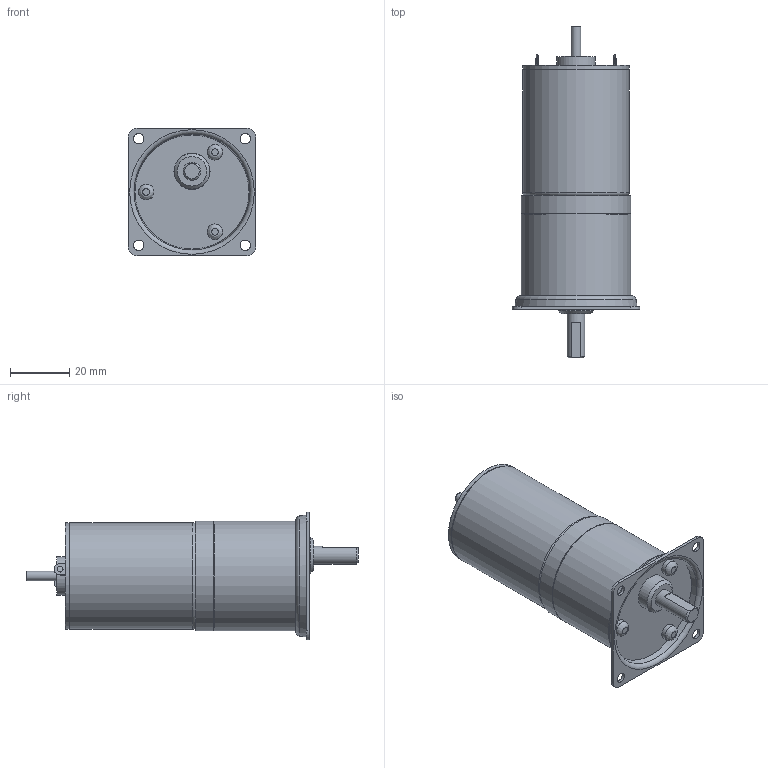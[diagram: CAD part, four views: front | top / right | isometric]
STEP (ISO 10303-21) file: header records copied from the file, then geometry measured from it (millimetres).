
FILE_DESCRIPTION((''),'2;1');
FILE_NAME('C:\Documents and Settings\SSEGAWA\デスクトップ\TP-3644L-PHM-6.STP','2013-07-26T18:54:19',('SSEGAWA'),(''),'Autodesk Inventor 2010','Autodesk Inventor 2010','');
FILE_SCHEMA(('CONFIG_CONTROL_DESIGN'));
Length unit declared in the file: millimetre
Products named in the file (1): tp_3644l_phm_6_Shrinkwrap_1
Bounding box: 43 x 112.1 x 43 mm (x, y, z)
Volume: 84537.2 mm3; surface area: 15425.4 mm2
Topology: 1 solids, 9 shells, 100 faces, 208 edges, 139 vertices
Faces by surface type: plane 43, cylinder 26, bspline 23, torus 4, cone 4
Full cylindrical faces by diameter (mm): 3 x1, 3.175 x1, 3.5 x1, 5.3 x3, 6 x1, 12 x1, 12.2 x1, 13 x1, 35.6 x1, 36 x2, 36.6 x1, 37 x2
Entity records: 2756 total; most frequent: CARTESIAN_POINT 828, DIRECTION 383, ORIENTED_EDGE 274, EDGE_LOOP 171, AXIS2_PLACEMENT_3D 170, EDGE_CURVE 137, VERTEX_POINT 114, STYLED_ITEM 101
